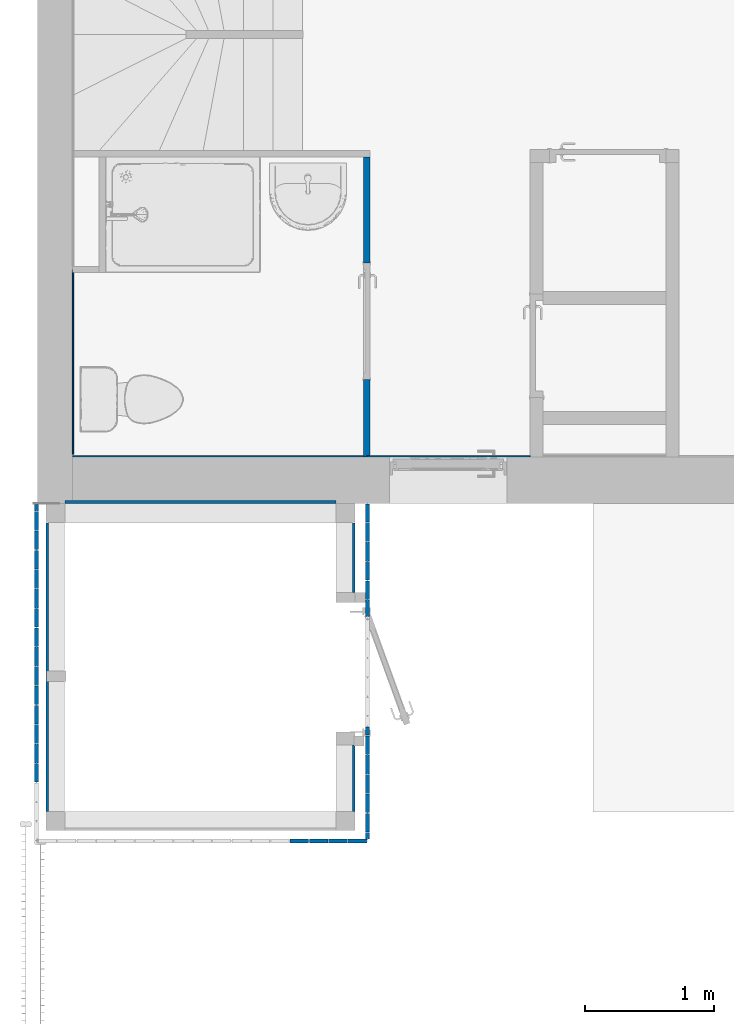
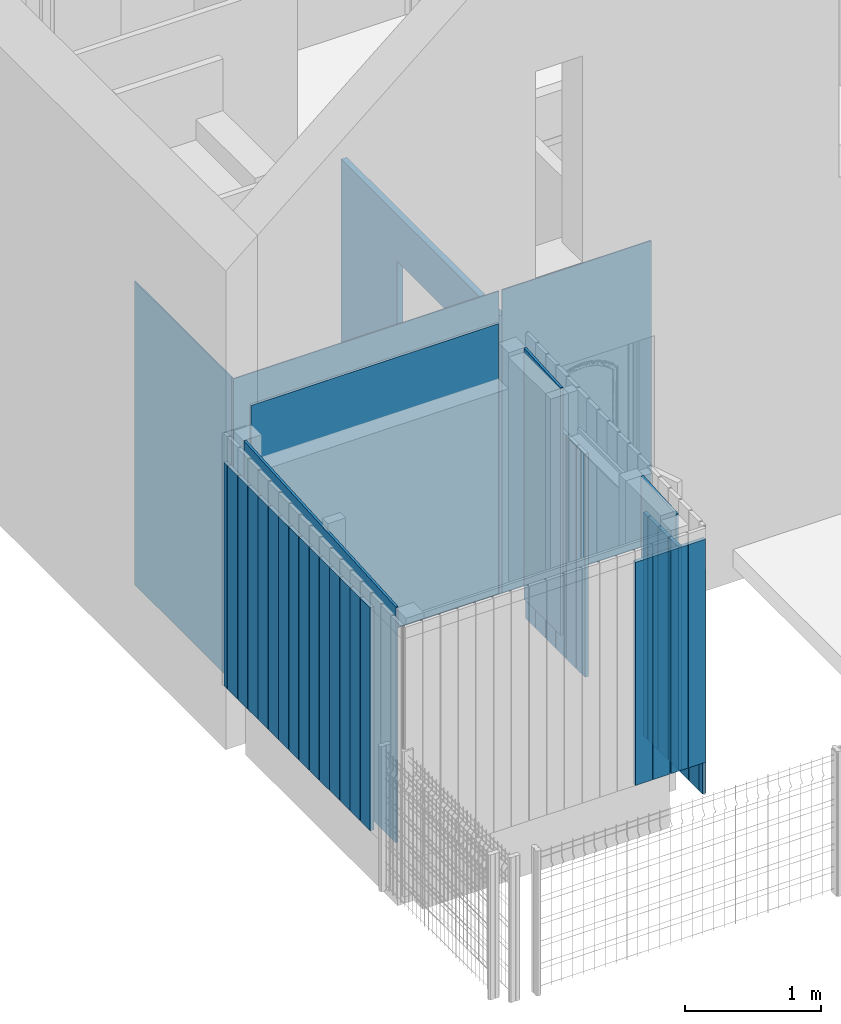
# One storey, part 67 of 81: 40 walls, 1 opening, 3 elements without a shape of their own.
"""IFC2X3 building model written with IfcOpenShell, lengths in metres."""

from ifc_helpers import new_model, entity, si_unit, converted_unit, derived_unit, direction, frame, frame_2d, origin, place, context, subcontext, project, spatial, polyline, rectangle, extrude, clip, bounded_halfspace, material, layer, layer_set, layer_usage, type_object, element, aggregate, save


model = new_model("IFC2X3")

# Units and contexts
model_context = context("Model", 3, precision=1e-05, world=origin(), true_north=direction((6.12303176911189e-17, 1.0)))
body_context = subcontext(model_context, "Body", "Model", "MODEL_VIEW")
ifc_project = project(units=[si_unit("LENGTHUNIT", "METRE"), si_unit("AREAUNIT", "SQUARE_METRE"), si_unit("VOLUMEUNIT", "CUBIC_METRE"), converted_unit("PLANEANGLEUNIT", "DEGREE", entity("IfcRatioMeasure", 0.0174532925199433), si_unit("PLANEANGLEUNIT", "RADIAN"), dimensions=[0, 0, 0, 0, 0, 0, 0]), si_unit("MASSUNIT", "GRAM", prefix="KILO"), derived_unit("MASSDENSITYUNIT", [(si_unit("MASSUNIT", "GRAM", prefix="KILO"), 1), (si_unit("LENGTHUNIT", "METRE"), -3)]), derived_unit("MOMENTOFINERTIAUNIT", [(si_unit("LENGTHUNIT", "METRE"), 4)]), si_unit("TIMEUNIT", "SECOND"), si_unit("FREQUENCYUNIT", "HERTZ"), si_unit("THERMODYNAMICTEMPERATUREUNIT", "DEGREE_CELSIUS"), derived_unit("THERMALTRANSMITTANCEUNIT", [(si_unit("MASSUNIT", "GRAM", prefix="KILO"), 1), (si_unit("THERMODYNAMICTEMPERATUREUNIT", "KELVIN"), -1), (si_unit("TIMEUNIT", "SECOND"), -3)]), derived_unit("VOLUMETRICFLOWRATEUNIT", [(si_unit("LENGTHUNIT", "METRE"), 3), (si_unit("TIMEUNIT", "SECOND"), -1)]), si_unit("ELECTRICCURRENTUNIT", "AMPERE"), si_unit("ELECTRICVOLTAGEUNIT", "VOLT"), si_unit("POWERUNIT", "WATT"), si_unit("FORCEUNIT", "NEWTON", prefix="KILO"), si_unit("ILLUMINANCEUNIT", "LUX"), si_unit("LUMINOUSFLUXUNIT", "LUMEN"), si_unit("LUMINOUSINTENSITYUNIT", "CANDELA"), derived_unit("USERDEFINED", [(si_unit("MASSUNIT", "GRAM", prefix="KILO"), -1), (si_unit("LENGTHUNIT", "METRE"), -2), (si_unit("TIMEUNIT", "SECOND"), 3), (si_unit("LUMINOUSFLUXUNIT", "LUMEN"), 1)]), derived_unit("LINEARVELOCITYUNIT", [(si_unit("LENGTHUNIT", "METRE"), 1), (si_unit("TIMEUNIT", "SECOND"), -1)]), si_unit("PRESSUREUNIT", "PASCAL"), derived_unit("USERDEFINED", [(si_unit("LENGTHUNIT", "METRE"), -2), (si_unit("MASSUNIT", "GRAM", prefix="KILO"), 1), (si_unit("TIMEUNIT", "SECOND"), -2)]), derived_unit("LINEARFORCEUNIT", [(si_unit("MASSUNIT", "GRAM", prefix="KILO"), 1), (si_unit("LENGTHUNIT", "METRE"), 1), (si_unit("TIMEUNIT", "SECOND"), -2), (si_unit("LENGTHUNIT", "METRE"), -1)]), derived_unit("PLANARFORCEUNIT", [(si_unit("MASSUNIT", "GRAM", prefix="KILO"), 1), (si_unit("LENGTHUNIT", "METRE"), 1), (si_unit("TIMEUNIT", "SECOND"), -2), (si_unit("LENGTHUNIT", "METRE"), -2)])], contexts=[model_context])

# Site, building, storey
site_placement = place(None, origin())
site = spatial("IfcSite", under=ifc_project, at=site_placement, Name="Surface", CompositionType="ELEMENT")
building_placement = place(site_placement, origin())
building = spatial("IfcBuilding", under=site, at=building_placement, CompositionType="ELEMENT")
storey_placement = place(building_placement, origin())
storey = spatial("IfcBuildingStorey", under=building, at=storey_placement, Name="01 RDC", CompositionType="ELEMENT", Elevation=-1.94916083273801e-14)

# Wall, opening
ifc_material_1 = material(Name="Mur par défaut")
ifc_layer_1 = layer(ifc_material_1, 0.05)
ifc_layer_set_1 = layer_set([ifc_layer_1], Name="Mur de base:Int. Plâtre 50 mm")
ifc_layer_usage_1 = layer_usage(ifc_layer_set_1, "AXIS2", "NEGATIVE", 0.025)
wall_type_1 = type_object("IfcWallType", Name="Mur de base:Int. Plâtre 50 mm", PredefinedType="STANDARD", material=ifc_layer_set_1)
wall_1_placement = place(storey_placement, frame((8.0165615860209, -1.01596095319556, 0.0), z_axis=(0.0, 0.0, 1.0), x_axis=(0.0, -1.0, 0.0)))
wall_1 = element("IfcWallStandardCase", 1, at=wall_1_placement, inside=storey, type_object=wall_type_1, material=ifc_layer_usage_1, Name="Mur de base:Int. Plâtre 50 mm", ObjectType="Mur de base:Int. Plâtre 50 mm", context=body_context, shape_type="Clipping", body=[
    clip(extrude(rectangle(XDim=2.32, YDim=0.0499999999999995, at=frame_2d((1.16, -1.73472347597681e-17), x_axis=(-1.0, 0.0))), origin(), (0.0, 0.0, 1.0), 2.495), bounded_halfspace(frame((0.0, -0.0250000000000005, 2.495), z_axis=(0.0, 0.0, -1.0), x_axis=(-1.0, 0.0, 0.0)), True, frame((0.0, -0.0250000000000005, 2.495)), polyline([(0.0, 0.0), (2.31, 0.0), (2.32, 0.0), (2.32, 0.0250000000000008), (2.32, 0.0500000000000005), (2.31, 0.0500000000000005), (0.0, 0.0500000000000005), (0.0, 0.0)]))),
])
opening_placement = place(wall_1_placement, frame((0.820000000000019, -0.0249999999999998, 0.0)))
element("IfcOpeningElement", 2, at=opening_placement, cuts=wall_1, Name="Int. Simple:PP (0.83m x 2.04m):1", ObjectType="Opening", context=body_context, shape_type="SweptSolid", body=[
    extrude(rectangle(XDim=2.075, YDim=0.9, at=frame_2d((1.0375, 0.45), x_axis=(1.0, 0.0))), frame((0.0, 0.0, 0.0), z_axis=(0.0, 1.0, 0.0), x_axis=(0.0, 0.0, 1.0)), (0.0, 0.0, 1.0), 0.05),
])

# Walls
ifc_material_2 = material(Name="Maçonnerie - Isolant")
ifc_layer_2 = layer(ifc_material_2, 0.02)
ifc_layer_set_2 = layer_set([ifc_layer_2], Name="Mur de base:Int. Polyester 20 mm")
ifc_layer_usage_2 = layer_usage(ifc_layer_set_2, "AXIS2", "NEGATIVE", 0.01)
wall_type_2 = type_object("IfcWallType", Name="Mur de base:Int. Polyester 20 mm", PredefinedType="STANDARD", material=ifc_layer_set_2)
wall_2_placement = place(storey_placement, frame((5.54156158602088, -3.84846095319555, 0.3), z_axis=(0.0, 0.0, 1.0), x_axis=(0.0, -1.0, 0.0)))
element("IfcWallStandardCase", 3, at=wall_2_placement, inside=storey, type_object=wall_type_2, material=ifc_layer_usage_2, Name="Mur de base:Int. Polyester 20 mm", ObjectType="Mur de base:Int. Polyester 20 mm", context=body_context, shape_type="Clipping", body=[
    clip(extrude(rectangle(XDim=2.232275, YDim=0.0199999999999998, at=frame_2d((1.1161375, -2.81025203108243e-16), x_axis=(-1.0, 0.0))), origin(), (0.0, 0.0, 1.0), 2.24915045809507), bounded_halfspace(frame((0.0, -0.00999999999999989, 2.24915045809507), z_axis=(-0.0610485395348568, 0.0, -0.998134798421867), x_axis=(-0.998134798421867, 0.0, 0.0610485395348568)), True, frame((0.0, -0.00999999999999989, 2.24915045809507)), polyline([(0.0, 0.0), (2.232275, 0.0), (2.232275, 0.0200000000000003), (0.0, 0.0199999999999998), (0.0, 0.0)]))),
])
ifc_layer_usage_3 = layer_usage(ifc_layer_set_2, "AXIS2", "NEGATIVE", 0.01)
wall_3_placement = place(storey_placement, frame((7.91656158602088, -3.84721095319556, 0.3), z_axis=(0.0, 0.0, 1.0), x_axis=(0.0, -1.0, 0.0)))
element("IfcWallStandardCase", 4, at=wall_3_placement, inside=storey, type_object=wall_type_2, material=ifc_layer_usage_3, Name="Mur de base:Int. Polyester 20 mm", ObjectType="Mur de base:Int. Polyester 20 mm", context=body_context, shape_type="Clipping", body=[
    clip(extrude(rectangle(XDim=0.538549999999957, YDim=0.0199999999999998, at=frame_2d((0.269274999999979, -1.47451495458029e-17), x_axis=(-1.0, 0.0))), origin(), (0.0, 0.0, 1.0), 2.24922691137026), bounded_halfspace(frame((0.0, -0.00999999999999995, 2.24922691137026), z_axis=(-0.0610485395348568, 0.0, -0.998134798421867), x_axis=(-0.998134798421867, 0.0, 0.0610485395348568)), True, frame((0.0, -0.00999999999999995, 2.24922691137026)), polyline([(0.0, 0.0), (0.538549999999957, 0.0), (0.538549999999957, 0.0199999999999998), (0.0, 0.0199999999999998), (0.0, 0.0)]))),
])
ifc_layer_usage_4 = layer_usage(ifc_layer_set_2, "AXIS2", "NEGATIVE", 0.01)
wall_4_placement = place(storey_placement, frame((7.91656158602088, -5.56701095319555, 0.3), z_axis=(0.0, 0.0, 1.0), x_axis=(0.0, -1.0, 0.0)))
element("IfcWallStandardCase", 5, at=wall_4_placement, inside=storey, type_object=wall_type_2, material=ifc_layer_usage_4, Name="Mur de base:Int. Polyester 20 mm", ObjectType="Mur de base:Int. Polyester 20 mm", context=body_context, shape_type="Clipping", body=[
    clip(extrude(rectangle(XDim=0.51395000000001, YDim=0.0199999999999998, at=frame_2d((0.256975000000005, -3.90312782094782e-17), x_axis=(-1.0, 0.0))), origin(), (0.0, 0.0, 1.0), 2.14403943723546), bounded_halfspace(frame((0.0, -0.00999999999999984, 2.14403943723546), z_axis=(-0.0610485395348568, 0.0, -0.998134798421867), x_axis=(-0.998134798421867, 0.0, 0.0610485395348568)), True, frame((0.0, -0.00999999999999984, 2.14403943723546)), polyline([(0.0, 0.0), (0.51395000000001, 0.0), (0.51395000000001, 0.0199999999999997), (0.0, 0.0199999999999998), (0.0, 0.0)]))),
])
ifc_layer_usage_5 = layer_usage(ifc_layer_set_2, "AXIS2", "NEGATIVE", 0.01)
wall_5_placement = place(storey_placement, frame((5.68156158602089, -3.68596095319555, 0.3)))
element("IfcWallStandardCase", 6, at=wall_5_placement, inside=storey, type_object=wall_type_2, material=ifc_layer_usage_5, Name="Mur de base:Int. Polyester 20 mm", ObjectType="Mur de base:Int. Polyester 20 mm", context=body_context, shape_type="SweptSolid", body=[
    extrude(rectangle(XDim=2.095, YDim=0.0199999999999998, at=frame_2d((1.0475, -2.34187669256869e-17), x_axis=(-1.0, 0.0))), origin(), (0.0, 0.0, 1.0), 2.42000000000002),
])

# Curtain wall, walls
curtain_wall_type = type_object("IfcCurtainWallType", Name="Mur-rideau:1m x 2m", PredefinedType="NOTDEFINED")
curtain_wall_1_placement = place(storey_placement, origin())
curtain_wall_1 = element("IfcCurtainWall", 7, at=curtain_wall_1_placement, inside=storey, type_object=curtain_wall_type, Name="Mur-rideau:1m x 2m", ObjectType="Mur-rideau:1m x 2m")
ifc_material_3 = material(Name="Résineux, bois de construction")
ifc_layer_3 = layer(ifc_material_3, 0.03)
ifc_layer_set_3 = layer_set([ifc_layer_3], Name="Mur-rideau:1m x 2m")
ifc_layer_usage_6 = layer_usage(ifc_layer_set_3, "AXIS2", "NEGATIVE", 0.015)
wall_type_3 = type_object("IfcWallType", Name="Mur de base:Panneau Triply 30 mm", PredefinedType="NOTDEFINED", material=ifc_layer_set_3)
wall_6_placement = place(storey_placement, frame((8.02156158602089, -3.70096095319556, 0.0), z_axis=(0.0, 0.0, 1.0), x_axis=(0.0, -1.0, 0.0)))
wall_6 = element("IfcWallStandardCase", 8, at=wall_6_placement, type_object=wall_type_3, material=ifc_layer_usage_6, Name="Mur de base:Panneau Triply 30 mm", ObjectType="Mur de base:Panneau Triply 30 mm", context=body_context, shape_type="SweptSolid", body=[
    extrude(rectangle(XDim=0.1400000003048, YDim=0.0299999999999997, at=frame_2d((0.0700000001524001, 1.13624387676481e-16), x_axis=(-1.0, 0.0))), origin(), (0.0, 0.0, 1.0), 2.0),
])
ifc_layer_usage_7 = layer_usage(ifc_layer_set_3, "AXIS2", "NEGATIVE", 0.015)
wall_7_placement = place(storey_placement, frame((8.02156158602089, -3.84596095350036, 0.0), z_axis=(0.0, 0.0, 1.0), x_axis=(0.0, -1.0, 0.0)))
wall_7 = element("IfcWallStandardCase", 9, at=wall_7_placement, type_object=wall_type_3, material=ifc_layer_usage_7, Name="Mur de base:Panneau Triply 30 mm", ObjectType="Mur de base:Panneau Triply 30 mm", context=body_context, shape_type="SweptSolid", body=[
    extrude(rectangle(XDim=0.145, YDim=0.0299999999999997, at=frame_2d((0.0725, 1.17961196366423e-16), x_axis=(-1.0, 0.0))), origin(), (0.0, 0.0, 1.0), 2.0),
])
ifc_layer_usage_8 = layer_usage(ifc_layer_set_3, "AXIS2", "NEGATIVE", 0.015)
wall_8_placement = place(storey_placement, frame((8.02156158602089, -3.99596095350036, 0.0), z_axis=(0.0, 0.0, 1.0), x_axis=(0.0, -1.0, 0.0)))
wall_8 = element("IfcWallStandardCase", 10, at=wall_8_placement, type_object=wall_type_3, material=ifc_layer_usage_8, Name="Mur de base:Panneau Triply 30 mm", ObjectType="Mur de base:Panneau Triply 30 mm", context=body_context, shape_type="SweptSolid", body=[
    extrude(rectangle(XDim=0.145, YDim=0.0299999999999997, at=frame_2d((0.0725, -4.24139889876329e-16), x_axis=(-1.0, 0.0))), origin(), (0.0, 0.0, 1.0), 2.0),
])
ifc_layer_usage_9 = layer_usage(ifc_layer_set_3, "AXIS2", "NEGATIVE", 0.015)
wall_9_placement = place(storey_placement, frame((8.02156158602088, -4.14596095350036, 0.0), z_axis=(0.0, 0.0, 1.0), x_axis=(0.0, -1.0, 0.0)))
wall_9 = element("IfcWallStandardCase", 11, at=wall_9_placement, type_object=wall_type_3, material=ifc_layer_usage_9, Name="Mur de base:Panneau Triply 30 mm", ObjectType="Mur de base:Panneau Triply 30 mm", context=body_context, shape_type="SweptSolid", body=[
    extrude(rectangle(XDim=0.145, YDim=0.0299999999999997, at=frame_2d((0.0725, 1.17961196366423e-16), x_axis=(-1.0, 0.0))), origin(), (0.0, 0.0, 1.0), 2.0),
])
ifc_layer_usage_10 = layer_usage(ifc_layer_set_3, "AXIS2", "NEGATIVE", 0.015)
wall_10_placement = place(storey_placement, frame((8.02156158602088, -4.29596095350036, 0.0), z_axis=(0.0, 0.0, 1.0), x_axis=(0.0, -1.0, 0.0)))
wall_10 = element("IfcWallStandardCase", 12, at=wall_10_placement, type_object=wall_type_3, material=ifc_layer_usage_10, Name="Mur de base:Panneau Triply 30 mm", ObjectType="Mur de base:Panneau Triply 30 mm", context=body_context, shape_type="SweptSolid", body=[
    extrude(rectangle(XDim=0.145, YDim=0.0299999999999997, at=frame_2d((0.0725, 1.17961196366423e-16), x_axis=(-1.0, 0.0))), origin(), (0.0, 0.0, 1.0), 2.0),
])
ifc_layer_usage_11 = layer_usage(ifc_layer_set_3, "AXIS2", "NEGATIVE", 0.015)
wall_11_placement = place(storey_placement, frame((8.02156158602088, -4.44596095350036, 0.0), z_axis=(0.0, 0.0, 1.0), x_axis=(0.0, -1.0, 0.0)))
wall_11 = element("IfcWallStandardCase", 13, at=wall_11_placement, type_object=wall_type_3, material=ifc_layer_usage_11, Name="Mur de base:Panneau Triply 30 mm", ObjectType="Mur de base:Panneau Triply 30 mm", context=body_context, shape_type="SweptSolid", body=[
    extrude(rectangle(XDim=0.125, YDim=0.0299999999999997, at=frame_2d((0.0625000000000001, 1.01481323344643e-16), x_axis=(-1.0, 0.0))), origin(), (0.0, 0.0, 1.0), 2.0),
])
ifc_layer_usage_12 = layer_usage(ifc_layer_set_3, "AXIS2", "NEGATIVE", 0.015)
wall_12_placement = place(storey_placement, frame((8.02156158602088, -5.42596095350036, 0.0), z_axis=(0.0, 0.0, 1.0), x_axis=(0.0, -1.0, 0.0)))
wall_12 = element("IfcWallStandardCase", 14, at=wall_12_placement, type_object=wall_type_3, material=ifc_layer_usage_12, Name="Mur de base:Panneau Triply 30 mm", ObjectType="Mur de base:Panneau Triply 30 mm", context=body_context, shape_type="SweptSolid", body=[
    extrude(rectangle(XDim=0.0650000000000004, YDim=0.0299999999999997, at=frame_2d((0.0325000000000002, -4.88324658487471e-16), x_axis=(-1.0, 0.0))), origin(), (0.0, 0.0, 1.0), 2.0),
])
ifc_layer_usage_13 = layer_usage(ifc_layer_set_3, "AXIS2", "NEGATIVE", 0.015)
wall_13_placement = place(storey_placement, frame((8.02156158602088, -5.49596095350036, 0.0), z_axis=(0.0, 0.0, 1.0), x_axis=(0.0, -1.0, 0.0)))
wall_13 = element("IfcWallStandardCase", 15, at=wall_13_placement, type_object=wall_type_3, material=ifc_layer_usage_13, Name="Mur de base:Panneau Triply 30 mm", ObjectType="Mur de base:Panneau Triply 30 mm", context=body_context, shape_type="SweptSolid", body=[
    extrude(rectangle(XDim=0.145, YDim=0.0299999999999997, at=frame_2d((0.0724999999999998, 1.17961196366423e-16), x_axis=(-1.0, 0.0))), origin(), (0.0, 0.0, 1.0), 2.0),
])
ifc_layer_usage_14 = layer_usage(ifc_layer_set_3, "AXIS2", "NEGATIVE", 0.015)
wall_14_placement = place(storey_placement, frame((8.02156158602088, -5.64596095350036, 0.0), z_axis=(0.0, 0.0, 1.0), x_axis=(0.0, -1.0, 0.0)))
wall_14 = element("IfcWallStandardCase", 16, at=wall_14_placement, type_object=wall_type_3, material=ifc_layer_usage_14, Name="Mur de base:Panneau Triply 30 mm", ObjectType="Mur de base:Panneau Triply 30 mm", context=body_context, shape_type="SweptSolid", body=[
    extrude(rectangle(XDim=0.144999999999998, YDim=0.0299999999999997, at=frame_2d((0.0724999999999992, 1.17961196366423e-16), x_axis=(-1.0, 0.0))), origin(), (0.0, 0.0, 1.0), 2.0),
])
ifc_layer_usage_15 = layer_usage(ifc_layer_set_3, "AXIS2", "NEGATIVE", 0.015)
wall_15_placement = place(storey_placement, frame((8.02156158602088, -5.79596095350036, 0.0), z_axis=(0.0, 0.0, 1.0), x_axis=(0.0, -1.0, 0.0)))
wall_15 = element("IfcWallStandardCase", 17, at=wall_15_placement, type_object=wall_type_3, material=ifc_layer_usage_15, Name="Mur de base:Panneau Triply 30 mm", ObjectType="Mur de base:Panneau Triply 30 mm", context=body_context, shape_type="SweptSolid", body=[
    extrude(rectangle(XDim=0.145, YDim=0.0299999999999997, at=frame_2d((0.0724999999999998, 1.17961196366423e-16), x_axis=(-1.0, 0.0))), origin(), (0.0, 0.0, 1.0), 2.0),
])
ifc_layer_usage_16 = layer_usage(ifc_layer_set_3, "AXIS2", "NEGATIVE", 0.015)
wall_16_placement = place(storey_placement, frame((8.02156158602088, -5.94596095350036, 0.0), z_axis=(0.0, 0.0, 1.0), x_axis=(0.0, -1.0, 0.0)))
wall_16 = element("IfcWallStandardCase", 18, at=wall_16_placement, type_object=wall_type_3, material=ifc_layer_usage_16, Name="Mur de base:Panneau Triply 30 mm", ObjectType="Mur de base:Panneau Triply 30 mm", context=body_context, shape_type="SweptSolid", body=[
    extrude(rectangle(XDim=0.144999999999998, YDim=0.0299999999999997, at=frame_2d((0.0724999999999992, 1.17961196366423e-16), x_axis=(-1.0, 0.0))), origin(), (0.0, 0.0, 1.0), 2.0),
])
ifc_layer_usage_17 = layer_usage(ifc_layer_set_3, "AXIS2", "NEGATIVE", 0.015)
wall_17_placement = place(storey_placement, frame((8.02156158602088, -6.09596095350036, 0.0), z_axis=(0.0, 0.0, 1.0), x_axis=(0.0, -1.0, 0.0)))
wall_17 = element("IfcWallStandardCase", 19, at=wall_17_placement, type_object=wall_type_3, material=ifc_layer_usage_17, Name="Mur de base:Panneau Triply 30 mm", ObjectType="Mur de base:Panneau Triply 30 mm", context=body_context, shape_type="SweptSolid", body=[
    extrude(rectangle(XDim=0.144999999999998, YDim=0.0299999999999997, at=frame_2d((0.0724999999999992, -4.24139889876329e-16), x_axis=(-1.0, 0.0))), origin(), (0.0, 0.0, 1.0), 2.0),
])
ifc_layer_usage_18 = layer_usage(ifc_layer_set_3, "AXIS2", "NEGATIVE", 0.015)
wall_18_placement = place(storey_placement, frame((8.02156158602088, -6.24596095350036, 0.0), z_axis=(0.0, 0.0, 1.0), x_axis=(0.0, -1.0, 0.0)))
wall_18 = element("IfcWallStandardCase", 20, at=wall_18_placement, type_object=wall_type_3, material=ifc_layer_usage_18, Name="Mur de base:Panneau Triply 30 mm", ObjectType="Mur de base:Panneau Triply 30 mm", context=body_context, shape_type="SweptSolid", body=[
    extrude(rectangle(XDim=0.0487499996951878, YDim=0.0299999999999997, at=frame_2d((0.0243749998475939, 3.90312782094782e-17), x_axis=(-1.0, 0.0))), origin(), (0.0, 0.0, 1.0), 2.0),
])
aggregate(curtain_wall_1, [wall_6, wall_7, wall_8, wall_9, wall_10, wall_11, wall_12, wall_13, wall_14, wall_15, wall_16, wall_17, wall_18])

curtain_wall_2_placement = place(storey_placement, origin())
curtain_wall_2 = element("IfcCurtainWall", 21, at=curtain_wall_2_placement, inside=storey, type_object=curtain_wall_type, Name="Mur-rideau:1m x 2m", ObjectType="Mur-rideau:1m x 2m")
ifc_layer_usage_19 = layer_usage(ifc_layer_set_3, "AXIS2", "POSITIVE", -0.015)
wall_19_placement = place(storey_placement, frame((5.45983615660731, -5.85471095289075, 0.3), z_axis=(0.0, 0.0, 1.0), x_axis=(0.0, 1.0, 0.0)))
wall_19 = element("IfcWallStandardCase", 22, at=wall_19_placement, type_object=wall_type_3, material=ifc_layer_usage_19, Name="Mur de base:Panneau Triply 30 mm", ObjectType="Mur de base:Panneau Triply 30 mm", context=body_context, shape_type="SweptSolid", body=[
    extrude(rectangle(XDim=0.144999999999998, YDim=0.0299999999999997, at=frame_2d((0.0724999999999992, 1.24032728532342e-16), x_axis=(-1.0, 0.0))), origin(), (0.0, 0.0, 1.0), 2.0),
])
ifc_layer_usage_20 = layer_usage(ifc_layer_set_3, "AXIS2", "POSITIVE", -0.015)
wall_20_placement = place(storey_placement, frame((5.45983615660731, -5.70471095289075, 0.3), z_axis=(0.0, 0.0, 1.0), x_axis=(0.0, 1.0, 0.0)))
wall_20 = element("IfcWallStandardCase", 23, at=wall_20_placement, type_object=wall_type_3, material=ifc_layer_usage_20, Name="Mur de base:Panneau Triply 30 mm", ObjectType="Mur de base:Panneau Triply 30 mm", context=body_context, shape_type="SweptSolid", body=[
    extrude(rectangle(XDim=0.145, YDim=0.0299999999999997, at=frame_2d((0.0724999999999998, 1.24032728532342e-16), x_axis=(-1.0, 0.0))), origin(), (0.0, 0.0, 1.0), 2.0),
])
ifc_layer_usage_21 = layer_usage(ifc_layer_set_3, "AXIS2", "POSITIVE", -0.015)
wall_21_placement = place(storey_placement, frame((5.45983615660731, -5.55471095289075, 0.3), z_axis=(0.0, 0.0, 1.0), x_axis=(0.0, 1.0, 0.0)))
wall_21 = element("IfcWallStandardCase", 24, at=wall_21_placement, type_object=wall_type_3, material=ifc_layer_usage_21, Name="Mur de base:Panneau Triply 30 mm", ObjectType="Mur de base:Panneau Triply 30 mm", context=body_context, shape_type="SweptSolid", body=[
    extrude(rectangle(XDim=0.144999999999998, YDim=0.0299999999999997, at=frame_2d((0.0724999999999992, 1.24032728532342e-16), x_axis=(-1.0, 0.0))), origin(), (0.0, 0.0, 1.0), 2.0),
])
ifc_layer_usage_22 = layer_usage(ifc_layer_set_3, "AXIS2", "POSITIVE", -0.015)
wall_22_placement = place(storey_placement, frame((5.45983615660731, -5.40471095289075, 0.3), z_axis=(0.0, 0.0, 1.0), x_axis=(0.0, 1.0, 0.0)))
wall_22 = element("IfcWallStandardCase", 25, at=wall_22_placement, type_object=wall_type_3, material=ifc_layer_usage_22, Name="Mur de base:Panneau Triply 30 mm", ObjectType="Mur de base:Panneau Triply 30 mm", context=body_context, shape_type="SweptSolid", body=[
    extrude(rectangle(XDim=0.145, YDim=0.0299999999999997, at=frame_2d((0.0724999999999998, -4.17200995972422e-16), x_axis=(-1.0, 0.0))), origin(), (0.0, 0.0, 1.0), 2.0),
])
ifc_layer_usage_23 = layer_usage(ifc_layer_set_3, "AXIS2", "POSITIVE", -0.015)
wall_23_placement = place(storey_placement, frame((5.45983615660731, -5.25471095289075, 0.3), z_axis=(0.0, 0.0, 1.0), x_axis=(0.0, 1.0, 0.0)))
wall_23 = element("IfcWallStandardCase", 26, at=wall_23_placement, type_object=wall_type_3, material=ifc_layer_usage_23, Name="Mur de base:Panneau Triply 30 mm", ObjectType="Mur de base:Panneau Triply 30 mm", context=body_context, shape_type="SweptSolid", body=[
    extrude(rectangle(XDim=0.144999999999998, YDim=0.0299999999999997, at=frame_2d((0.0724999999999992, 1.24032728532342e-16), x_axis=(-1.0, 0.0))), origin(), (0.0, 0.0, 1.0), 2.0),
])
ifc_layer_usage_24 = layer_usage(ifc_layer_set_3, "AXIS2", "POSITIVE", -0.015)
wall_24_placement = place(storey_placement, frame((5.45983615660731, -5.10471095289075, 0.3), z_axis=(0.0, 0.0, 1.0), x_axis=(0.0, 1.0, 0.0)))
wall_24 = element("IfcWallStandardCase", 27, at=wall_24_placement, type_object=wall_type_3, material=ifc_layer_usage_24, Name="Mur de base:Panneau Triply 30 mm", ObjectType="Mur de base:Panneau Triply 30 mm", context=body_context, shape_type="SweptSolid", body=[
    extrude(rectangle(XDim=0.145, YDim=0.0299999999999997, at=frame_2d((0.0724999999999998, 1.24032728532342e-16), x_axis=(-1.0, 0.0))), origin(), (0.0, 0.0, 1.0), 2.0),
])
ifc_layer_usage_25 = layer_usage(ifc_layer_set_3, "AXIS2", "POSITIVE", -0.015)
wall_25_placement = place(storey_placement, frame((5.45983615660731, -4.95471095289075, 0.3), z_axis=(0.0, 0.0, 1.0), x_axis=(0.0, 1.0, 0.0)))
wall_25 = element("IfcWallStandardCase", 28, at=wall_25_placement, type_object=wall_type_3, material=ifc_layer_usage_25, Name="Mur de base:Panneau Triply 30 mm", ObjectType="Mur de base:Panneau Triply 30 mm", context=body_context, shape_type="SweptSolid", body=[
    extrude(rectangle(XDim=0.144999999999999, YDim=0.0299999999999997, at=frame_2d((0.0724999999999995, 1.24032728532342e-16), x_axis=(-1.0, 0.0))), origin(), (0.0, 0.0, 1.0), 2.0),
])
ifc_layer_usage_26 = layer_usage(ifc_layer_set_3, "AXIS2", "POSITIVE", -0.015)
wall_26_placement = place(storey_placement, frame((5.45983615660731, -4.80471095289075, 0.3), z_axis=(0.0, 0.0, 1.0), x_axis=(0.0, 1.0, 0.0)))
wall_26 = element("IfcWallStandardCase", 29, at=wall_26_placement, type_object=wall_type_3, material=ifc_layer_usage_26, Name="Mur de base:Panneau Triply 30 mm", ObjectType="Mur de base:Panneau Triply 30 mm", context=body_context, shape_type="SweptSolid", body=[
    extrude(rectangle(XDim=0.145000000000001, YDim=0.0299999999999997, at=frame_2d((0.0725000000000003, -4.17200995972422e-16), x_axis=(-1.0, 0.0))), origin(), (0.0, 0.0, 1.0), 2.0),
])
ifc_layer_usage_27 = layer_usage(ifc_layer_set_3, "AXIS2", "POSITIVE", -0.015)
wall_27_placement = place(storey_placement, frame((5.45983615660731, -4.65471095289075, 0.3), z_axis=(0.0, 0.0, 1.0), x_axis=(0.0, 1.0, 0.0)))
wall_27 = element("IfcWallStandardCase", 30, at=wall_27_placement, type_object=wall_type_3, material=ifc_layer_usage_27, Name="Mur de base:Panneau Triply 30 mm", ObjectType="Mur de base:Panneau Triply 30 mm", context=body_context, shape_type="SweptSolid", body=[
    extrude(rectangle(XDim=0.145, YDim=0.0299999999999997, at=frame_2d((0.0724999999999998, 1.24032728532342e-16), x_axis=(-1.0, 0.0))), origin(), (0.0, 0.0, 1.0), 2.0),
])
ifc_layer_usage_28 = layer_usage(ifc_layer_set_3, "AXIS2", "POSITIVE", -0.015)
wall_28_placement = place(storey_placement, frame((5.45983615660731, -4.50471095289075, 0.3), z_axis=(0.0, 0.0, 1.0), x_axis=(0.0, 1.0, 0.0)))
wall_28 = element("IfcWallStandardCase", 31, at=wall_28_placement, type_object=wall_type_3, material=ifc_layer_usage_28, Name="Mur de base:Panneau Triply 30 mm", ObjectType="Mur de base:Panneau Triply 30 mm", context=body_context, shape_type="SweptSolid", body=[
    extrude(rectangle(XDim=0.145000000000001, YDim=0.0299999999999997, at=frame_2d((0.0725000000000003, 1.24032728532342e-16), x_axis=(-1.0, 0.0))), origin(), (0.0, 0.0, 1.0), 2.0),
])
ifc_layer_usage_29 = layer_usage(ifc_layer_set_3, "AXIS2", "POSITIVE", -0.015)
wall_29_placement = place(storey_placement, frame((5.45983615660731, -4.35471095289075, 0.3), z_axis=(0.0, 0.0, 1.0), x_axis=(0.0, 1.0, 0.0)))
wall_29 = element("IfcWallStandardCase", 32, at=wall_29_placement, type_object=wall_type_3, material=ifc_layer_usage_29, Name="Mur de base:Panneau Triply 30 mm", ObjectType="Mur de base:Panneau Triply 30 mm", context=body_context, shape_type="SweptSolid", body=[
    extrude(rectangle(XDim=0.145, YDim=0.0299999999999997, at=frame_2d((0.0724999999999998, 1.24032728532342e-16), x_axis=(-1.0, 0.0))), origin(), (0.0, 0.0, 1.0), 2.0),
])
ifc_layer_usage_30 = layer_usage(ifc_layer_set_3, "AXIS2", "POSITIVE", -0.015)
wall_30_placement = place(storey_placement, frame((5.45983615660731, -4.20471095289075, 0.3), z_axis=(0.0, 0.0, 1.0), x_axis=(0.0, 1.0, 0.0)))
wall_30 = element("IfcWallStandardCase", 33, at=wall_30_placement, type_object=wall_type_3, material=ifc_layer_usage_30, Name="Mur de base:Panneau Triply 30 mm", ObjectType="Mur de base:Panneau Triply 30 mm", context=body_context, shape_type="SweptSolid", body=[
    extrude(rectangle(XDim=0.145000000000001, YDim=0.0299999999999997, at=frame_2d((0.0725000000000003, 1.24032728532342e-16), x_axis=(-1.0, 0.0))), origin(), (0.0, 0.0, 1.0), 2.0),
])
ifc_layer_usage_31 = layer_usage(ifc_layer_set_3, "AXIS2", "POSITIVE", -0.015)
wall_31_placement = place(storey_placement, frame((5.45983615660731, -4.05471095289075, 0.3), z_axis=(0.0, 0.0, 1.0), x_axis=(0.0, 1.0, 0.0)))
wall_31 = element("IfcWallStandardCase", 34, at=wall_31_placement, type_object=wall_type_3, material=ifc_layer_usage_31, Name="Mur de base:Panneau Triply 30 mm", ObjectType="Mur de base:Panneau Triply 30 mm", context=body_context, shape_type="SweptSolid", body=[
    extrude(rectangle(XDim=0.145, YDim=0.0299999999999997, at=frame_2d((0.0724999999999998, -4.17200995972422e-16), x_axis=(-1.0, 0.0))), origin(), (0.0, 0.0, 1.0), 2.0),
])
ifc_layer_usage_32 = layer_usage(ifc_layer_set_3, "AXIS2", "POSITIVE", -0.015)
wall_32_placement = place(storey_placement, frame((5.45983615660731, -3.90471095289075, 0.3), z_axis=(0.0, 0.0, 1.0), x_axis=(0.0, 1.0, 0.0)))
wall_32 = element("IfcWallStandardCase", 35, at=wall_32_placement, type_object=wall_type_3, material=ifc_layer_usage_32, Name="Mur de base:Panneau Triply 30 mm", ObjectType="Mur de base:Panneau Triply 30 mm", context=body_context, shape_type="SweptSolid", body=[
    extrude(rectangle(XDim=0.145, YDim=0.0299999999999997, at=frame_2d((0.0725, 1.24032728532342e-16), x_axis=(-1.0, 0.0))), origin(), (0.0, 0.0, 1.0), 2.0),
])
ifc_layer_usage_33 = layer_usage(ifc_layer_set_3, "AXIS2", "POSITIVE", -0.015)
wall_33_placement = place(storey_placement, frame((5.45983615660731, -3.75471095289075, 0.3), z_axis=(0.0, 0.0, 1.0), x_axis=(0.0, 1.0, 0.0)))
wall_33 = element("IfcWallStandardCase", 36, at=wall_33_placement, type_object=wall_type_3, material=ifc_layer_usage_33, Name="Mur de base:Panneau Triply 30 mm", ObjectType="Mur de base:Panneau Triply 30 mm", context=body_context, shape_type="SweptSolid", body=[
    extrude(rectangle(XDim=0.0499999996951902, YDim=0.0299999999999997, at=frame_2d((0.0249999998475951, 4.25007251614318e-17), x_axis=(-1.0, 0.0))), origin(), (0.0, 0.0, 1.0), 2.0),
])
aggregate(curtain_wall_2, [wall_19, wall_20, wall_21, wall_22, wall_23, wall_24, wall_25, wall_26, wall_27, wall_28, wall_29, wall_30, wall_31, wall_32, wall_33])

curtain_wall_3_placement = place(storey_placement, origin())
curtain_wall_3 = element("IfcCurtainWall", 37, at=curtain_wall_3_placement, inside=storey, type_object=curtain_wall_type, Name="Mur-rideau:1m x 2m", ObjectType="Mur-rideau:1m x 2m")
ifc_layer_usage_34 = layer_usage(ifc_layer_set_3, "AXIS2", "POSITIVE", -0.015)
wall_34_placement = place(storey_placement, frame((8.01656158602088, -6.30971095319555, 0.3), z_axis=(0.0, 0.0, 1.0), x_axis=(-1.0, 0.0, 0.0)))
wall_34 = element("IfcWallStandardCase", 38, at=wall_34_placement, type_object=wall_type_3, material=ifc_layer_usage_34, Name="Mur de base:Panneau Triply 30 mm", ObjectType="Mur de base:Panneau Triply 30 mm", context=body_context, shape_type="SweptSolid", body=[
    extrude(rectangle(XDim=0.1450000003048, YDim=0.0299999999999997, at=frame_2d((0.0725000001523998, 2.25514051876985e-16), x_axis=(-1.0, 0.0))), origin(), (0.0, 0.0, 1.0), 1.99999999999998),
])
ifc_layer_usage_35 = layer_usage(ifc_layer_set_3, "AXIS2", "POSITIVE", -0.015)
wall_35_placement = place(storey_placement, frame((7.86656158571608, -6.30971095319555, 0.3), z_axis=(0.0, 0.0, 1.0), x_axis=(-1.0, 0.0, 0.0)))
wall_35 = element("IfcWallStandardCase", 39, at=wall_35_placement, type_object=wall_type_3, material=ifc_layer_usage_35, Name="Mur de base:Panneau Triply 30 mm", ObjectType="Mur de base:Panneau Triply 30 mm", context=body_context, shape_type="SweptSolid", body=[
    extrude(rectangle(XDim=0.144999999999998, YDim=0.0299999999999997, at=frame_2d((0.0724999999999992, -3.15719672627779e-16), x_axis=(-1.0, 0.0))), origin(), (0.0, 0.0, 1.0), 1.99999999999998),
])
ifc_layer_usage_36 = layer_usage(ifc_layer_set_3, "AXIS2", "POSITIVE", -0.015)
wall_36_placement = place(storey_placement, frame((7.71656158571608, -6.30971095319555, 0.3), z_axis=(0.0, 0.0, 1.0), x_axis=(-1.0, 0.0, 0.0)))
wall_36 = element("IfcWallStandardCase", 40, at=wall_36_placement, type_object=wall_type_3, material=ifc_layer_usage_36, Name="Mur de base:Panneau Triply 30 mm", ObjectType="Mur de base:Panneau Triply 30 mm", context=body_context, shape_type="SweptSolid", body=[
    extrude(rectangle(XDim=0.145, YDim=0.0299999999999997, at=frame_2d((0.0724999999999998, 2.25514051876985e-16), x_axis=(-1.0, 0.0))), origin(), (0.0, 0.0, 1.0), 1.99999999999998),
])
ifc_layer_usage_37 = layer_usage(ifc_layer_set_3, "AXIS2", "POSITIVE", -0.015)
wall_37_placement = place(storey_placement, frame((7.56656158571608, -6.30971095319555, 0.3), z_axis=(0.0, 0.0, 1.0), x_axis=(-1.0, 0.0, 0.0)))
wall_37 = element("IfcWallStandardCase", 41, at=wall_37_placement, type_object=wall_type_3, material=ifc_layer_usage_37, Name="Mur de base:Panneau Triply 30 mm", ObjectType="Mur de base:Panneau Triply 30 mm", context=body_context, shape_type="SweptSolid", body=[
    extrude(rectangle(XDim=0.144999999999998, YDim=0.0299999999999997, at=frame_2d((0.0724999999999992, -3.15719672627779e-16), x_axis=(-1.0, 0.0))), origin(), (0.0, 0.0, 1.0), 1.99999999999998),
])
aggregate(curtain_wall_3, [wall_34, wall_35, wall_36, wall_37])

# Walls
ifc_material_4 = material(Name="Placoplâtre de gypse")
ifc_layer_4 = layer(ifc_material_4, 0.01)
ifc_layer_set_4 = layer_set([ifc_layer_4], Name="Mur de base:Int. Plâtre 10 mm")
ifc_layer_usage_38 = layer_usage(ifc_layer_set_4, "AXIS2", "POSITIVE", -0.005)
wall_type_4 = type_object("IfcWallType", Name="Mur de base:Int. Plâtre 10 mm", PredefinedType="STANDARD", material=ifc_layer_set_4)
wall_38_placement = place(storey_placement, frame((5.74156158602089, -3.31596095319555, 0.0), z_axis=(0.0, 0.0, 1.0), x_axis=(0.0, 1.0, 0.0)))
element("IfcWallStandardCase", 42, at=wall_38_placement, inside=storey, type_object=wall_type_4, material=ifc_layer_usage_38, Name="Mur de base:Int. Plâtre 10 mm", ObjectType="Mur de base:Int. Plâtre 10 mm", context=body_context, shape_type="SweptSolid", body=[
    extrude(rectangle(XDim=1.43, YDim=0.00999999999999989, at=frame_2d((0.714999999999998, -7.37257477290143e-18), x_axis=(-1.0, 0.0))), origin(), (0.0, 0.0, 1.0), 2.72000000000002),
])
ifc_layer_usage_39 = layer_usage(ifc_layer_set_4, "AXIS2", "POSITIVE", -0.005)
wall_39_placement = place(storey_placement, frame((8.0165615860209, -3.33096095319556, 0.0), z_axis=(0.0, 0.0, 1.0), x_axis=(-1.0, 0.0, 0.0)))
element("IfcWallStandardCase", 43, at=wall_39_placement, inside=storey, type_object=wall_type_4, material=ifc_layer_usage_39, Name="Mur de base:Int. Plâtre 10 mm", ObjectType="Mur de base:Int. Plâtre 10 mm", context=body_context, shape_type="SweptSolid", body=[
    extrude(rectangle(XDim=2.25000000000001, YDim=0.00999999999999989, at=frame_2d((1.15, 3.07913416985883e-17), x_axis=(-1.0, 0.0))), origin(), (0.0, 0.0, 1.0), 2.72000000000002),
])
ifc_layer_usage_40 = layer_usage(ifc_layer_set_4, "AXIS2", "POSITIVE", -0.005)
wall_40_placement = place(storey_placement, frame((9.28156158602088, -3.33096095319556, 0.0), z_axis=(0.0, 0.0, 1.0), x_axis=(-1.0, 0.0, 0.0)))
element("IfcWallStandardCase", 44, at=wall_40_placement, inside=storey, type_object=wall_type_4, material=ifc_layer_usage_40, Name="Mur de base:Int. Plâtre 10 mm", ObjectType="Mur de base:Int. Plâtre 10 mm", context=body_context, shape_type="SweptSolid", body=[
    extrude(rectangle(XDim=1.26499999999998, YDim=0.00999999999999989, at=frame_2d((0.632499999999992, -8.23993651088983e-17), x_axis=(-1.0, 0.0))), origin(), (0.0, 0.0, 1.0), 2.72000000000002),
])

save(model, "model.ifc")
